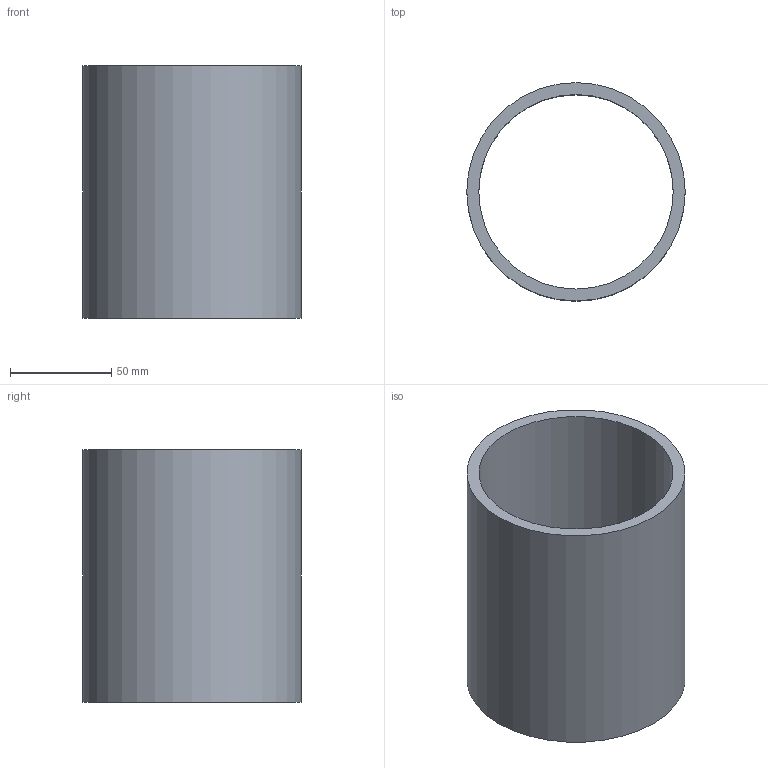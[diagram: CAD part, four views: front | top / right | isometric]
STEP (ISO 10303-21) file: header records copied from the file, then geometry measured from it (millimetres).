
FILE_DESCRIPTION(('FreeCAD Model'),'2;1');
FILE_NAME('Open CASCADE Shape Model','2026-11-05T18:53:51',('FreeCAD'),( 'FreeCAD'),'Open CASCADE STEP processor 7.8','FreeCAD','Unknown');
FILE_SCHEMA(('AUTOMOTIVE_DESIGN { 1 0 10303 214 1 1 1 1 }'));
Length unit declared in the file: millimetre
Products named in the file (1): Open CASCADE STEP translator 7.8 38
Bounding box: 108 x 108 x 125 mm (x, y, z)
Volume: 236558 mm3; surface area: 83974.1 mm2
Topology: 1 solids, 1 shells, 4 faces, 6 edges, 4 vertices
Faces by surface type: cylinder 2, plane 2
Full cylindrical faces by diameter (mm): 96.2 x1, 108 x1
Entity records: 108 total; most frequent: DIRECTION 20, CARTESIAN_POINT 15, ORIENTED_EDGE 12, AXIS2_PLACEMENT_3D 9, FACE_BOUND 6, EDGE_LOOP 6, EDGE_CURVE 6, ADVANCED_FACE 4
